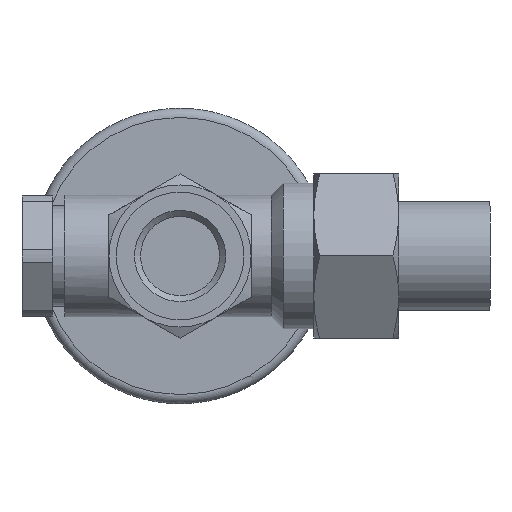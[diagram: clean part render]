
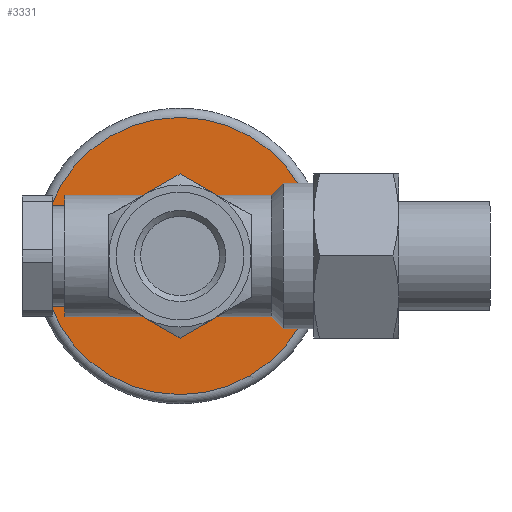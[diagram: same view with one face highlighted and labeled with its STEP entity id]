
A CAD part, left-side view. The second image highlights one B-rep face of the part: STEP entity #3331.
In plain terms, the highlighted planar face has unit normal (-1, 0, 0).
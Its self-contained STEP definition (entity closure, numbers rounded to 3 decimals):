
#316=FACE_BOUND('',#686,.T.);
#492=FACE_OUTER_BOUND('',#685,.T.);
#685=EDGE_LOOP('',(#2865));
#686=EDGE_LOOP('',(#2866));
#746=CIRCLE('',#3481,4.);
#870=CIRCLE('',#3690,22.8);
#1265=VERTEX_POINT('',#5074);
#1441=VERTEX_POINT('',#6810);
#1638=EDGE_CURVE('',#1265,#1265,#746,.T.);
#1897=EDGE_CURVE('',#1441,#1441,#870,.T.);
#2865=ORIENTED_EDGE('',*,*,#1897,.T.);
#2866=ORIENTED_EDGE('',*,*,#1638,.F.);
#2971=PLANE('',#3719);
#3331=ADVANCED_FACE('',(#492,#316),#2971,.T.);
#3481=AXIS2_PLACEMENT_3D('',#5076,#4055,#4056);
#3690=AXIS2_PLACEMENT_3D('',#6812,#4528,#4529);
#3719=AXIS2_PLACEMENT_3D('',#6961,#4592,#4593);
#4055=DIRECTION('center_axis',(-1.,0.,0.));
#4056=DIRECTION('ref_axis',(0.,1.,0.));
#4528=DIRECTION('center_axis',(-1.,0.,0.));
#4529=DIRECTION('ref_axis',(0.,0.,1.));
#4592=DIRECTION('center_axis',(-1.,0.,0.));
#4593=DIRECTION('ref_axis',(0.,0.,-1.));
#5074=CARTESIAN_POINT('',(1.037,37.313,0.));
#5076=CARTESIAN_POINT('Origin',(1.037,41.313,0.));
#6810=CARTESIAN_POINT('',(1.037,41.313,-22.8));
#6812=CARTESIAN_POINT('Origin',(1.037,41.313,0.));
#6961=CARTESIAN_POINT('Origin',(1.037,64.113,0.));
